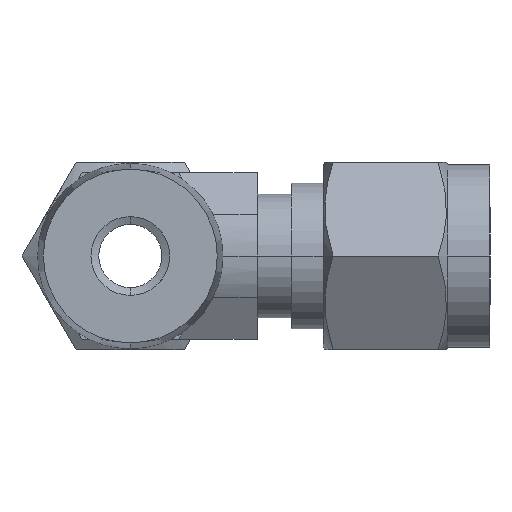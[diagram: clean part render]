
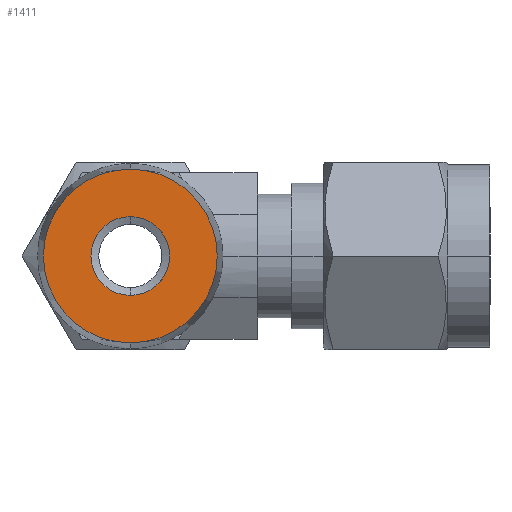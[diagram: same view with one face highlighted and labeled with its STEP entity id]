
A CAD part, left-side view. The second image highlights one B-rep face of the part: STEP entity #1411.
In plain terms, the highlighted planar face has unit normal (-1, 0, 0).
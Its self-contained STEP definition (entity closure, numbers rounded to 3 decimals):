
#807 = CARTESIAN_POINT ( 'NONE',  ( -24., 0., 6.618 ) ) ;
#808 = CARTESIAN_POINT ( 'NONE',  ( -24., 0., -6.618 ) ) ;
#809 = DIRECTION ( 'NONE',  ( 0., 0., 1. ) ) ;
#810 = DIRECTION ( 'NONE',  ( -1., 0., 0. ) ) ;
#811 = CARTESIAN_POINT ( 'NONE',  ( -24., 0., 0. ) ) ;
#812 = AXIS2_PLACEMENT_3D ( 'NONE', #811, #810, #809 ) ;
#814 = CARTESIAN_POINT ( 'NONE',  ( -24., 0., -3. ) ) ;
#878 = CIRCLE ( 'NONE', #812, 6.618 ) ;
#917 = CARTESIAN_POINT ( 'NONE',  ( -24., 0., 3. ) ) ;
#918 = DIRECTION ( 'NONE',  ( 0., 0., 1. ) ) ;
#919 = DIRECTION ( 'NONE',  ( -1., 0., 0. ) ) ;
#920 = CARTESIAN_POINT ( 'NONE',  ( -24., 0., 0. ) ) ;
#921 = AXIS2_PLACEMENT_3D ( 'NONE', #920, #919, #918 ) ;
#922 = CIRCLE ( 'NONE', #921, 3. ) ;
#1411 = ADVANCED_FACE ( 'NONE', ( #2389, #2388 ), #2387, .T. ) ;
#1412 = EDGE_LOOP ( 'NONE', ( #1413, #1415 ) ) ;
#1413 = ORIENTED_EDGE ( 'NONE', *, *, #1414, .F. ) ;
#1414 = EDGE_CURVE ( 'NONE', #1963, #1960, #2385, .T. ) ;
#1415 = ORIENTED_EDGE ( 'NONE', *, *, #1962, .F. ) ;
#1416 = EDGE_LOOP ( 'NONE', ( #1417, #1418 ) ) ;
#1417 = ORIENTED_EDGE ( 'NONE', *, *, #1468, .T. ) ;
#1418 = ORIENTED_EDGE ( 'NONE', *, *, #1983, .T. ) ;
#1468 = EDGE_CURVE ( 'NONE', #1985, #1984, #2287, .T. ) ;
#1960 = VERTEX_POINT ( 'NONE', #814 ) ;
#1962 = EDGE_CURVE ( 'NONE', #1960, #1963, #922, .T. ) ;
#1963 = VERTEX_POINT ( 'NONE', #917 ) ;
#1983 = EDGE_CURVE ( 'NONE', #1984, #1985, #878, .T. ) ;
#1984 = VERTEX_POINT ( 'NONE', #808 ) ;
#1985 = VERTEX_POINT ( 'NONE', #807 ) ;
#2283 = DIRECTION ( 'NONE',  ( 0., 0., 1. ) ) ;
#2284 = DIRECTION ( 'NONE',  ( -1., 0., 0. ) ) ;
#2285 = CARTESIAN_POINT ( 'NONE',  ( -24., 0., 0. ) ) ;
#2286 = AXIS2_PLACEMENT_3D ( 'NONE', #2285, #2284, #2283 ) ;
#2287 = CIRCLE ( 'NONE', #2286, 6.618 ) ;
#2346 = DIRECTION ( 'NONE',  ( 0., 0., 1. ) ) ;
#2347 = DIRECTION ( 'NONE',  ( -1., 0., 0. ) ) ;
#2348 = CARTESIAN_POINT ( 'NONE',  ( -24., 0., 0. ) ) ;
#2349 = AXIS2_PLACEMENT_3D ( 'NONE', #2348, #2347, #2346 ) ;
#2350 = DIRECTION ( 'NONE',  ( 0., 0., 1. ) ) ;
#2383 = DIRECTION ( 'NONE',  ( -1., 0., 0. ) ) ;
#2384 = AXIS2_PLACEMENT_3D ( 'NONE', #2386, #2383, #2350 ) ;
#2385 = CIRCLE ( 'NONE', #2349, 3. ) ;
#2386 = CARTESIAN_POINT ( 'NONE',  ( -24., 0., 0. ) ) ;
#2387 = PLANE ( 'NONE',  #2384 ) ;
#2388 = FACE_OUTER_BOUND ( 'NONE', #1416, .T. ) ;
#2389 = FACE_BOUND ( 'NONE', #1412, .T. ) ;
